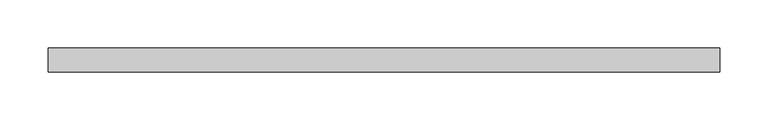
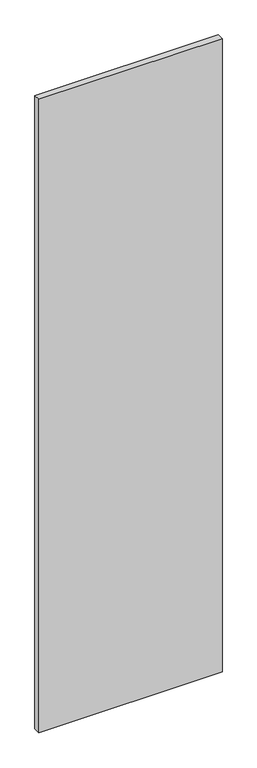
"""IFC4 building model written with IfcOpenShell, lengths in millimetres: plate geometry, 系统嵌板 : 玻璃."""

from ifc_helpers import new_model, si_unit, origin, origin_with_axes, place, context, project, spatial, polyline, outline, extrude, source, transform, mapped, element, save


def plate_3a2ac947(model_context):
    return source(origin(), model_context, "Body", "SweptSolid", [
        extrude(outline(polyline([(347.5, -12.5), (-347.5, -12.5), (-347.5, 12.5), (347.5, 12.5), (347.5, -12.5)])), origin_with_axes(), (0.0, 0.0, 1.0), 2540.0),
    ])


if __name__ == "__main__":
    model = new_model("IFC4")
    model_context = context("Model", 3, world=origin())
    ifc_project = project(units=[si_unit("LENGTHUNIT", "METRE", prefix="MILLI")], contexts=[model_context])
    site = spatial("IfcSite", under=ifc_project)
    building = spatial("IfcBuilding", under=site)
    placement = place(None, origin())
    plate_shape = plate_3a2ac947(model_context)
    element("IfcPlate", 1, ObjectType="系统嵌板 : 玻璃", at=placement, inside=building, context=model_context, shape_type="MappedRepresentation", body=[
        mapped(plate_shape, transform((0.0, 0.0, 0.0), x_axis=(1.0, 0.0, 0.0), y_axis=(0.0, 1.0, 0.0), z_axis=(0.0, 0.0, 1.0))),
    ])
    save(model, "model.ifc")
